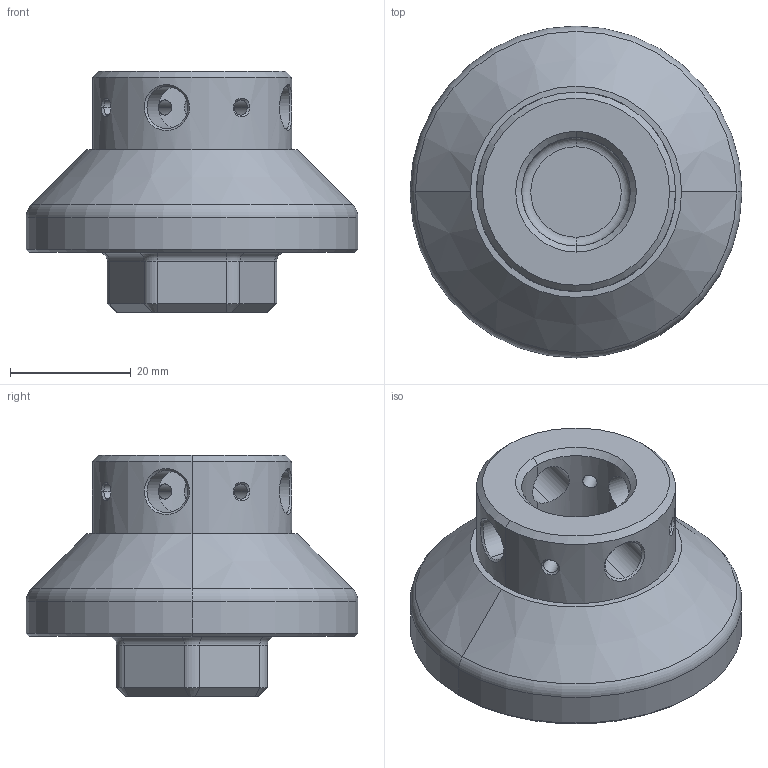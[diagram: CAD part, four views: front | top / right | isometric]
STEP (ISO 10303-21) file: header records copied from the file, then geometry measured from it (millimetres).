
FILE_DESCRIPTION((''),'2;1');
FILE_NAME('JXB6-PR60-30-60','2019-12-03T',('Win10'),(''),'PRO/ENGINEER BY PARAMETRIC TECHNOLOGY CORPORATION, 2010280','PRO/ENGINEER BY PARAMETRIC TECHNOLOGY CORPORATION, 2010280','');
FILE_SCHEMA(('AUTOMOTIVE_DESIGN_CC2 { 1 2 10303 214 -1 1 5 2 }'));
Length unit declared in the file: millimetre
Products named in the file (1): JXB6-PR60-30-60
Bounding box: 55 x 55 x 40 mm (x, y, z)
Volume: 41036.4 mm3; surface area: 10851.2 mm2
Topology: 1 solids, 1 shells, 127 faces, 308 edges, 178 vertices
Faces by surface type: cylinder 46, cone 38, plane 17, bspline 16, torus 10
Entity records: 6151 total; most frequent: CARTESIAN_POINT 2377, ORIENTED_EDGE 592, DIRECTION 578, PRESENTATION_STYLE_ASSIGNMENT 297, STYLED_ITEM 297, CURVE_STYLE 296, EDGE_CURVE 296, AXIS2_PLACEMENT_3D 223
